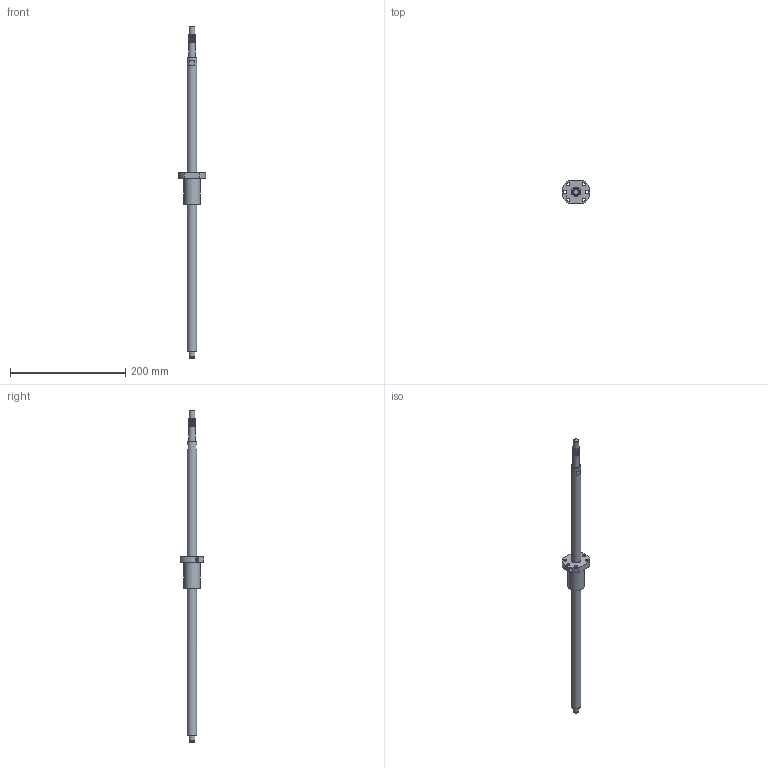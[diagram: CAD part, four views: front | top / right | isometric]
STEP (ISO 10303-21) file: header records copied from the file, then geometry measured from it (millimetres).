
FILE_DESCRIPTION(/* description */ (''),/* implementation_level */ '2;1');
FILE_NAME(/* name */ 'BSG142_asm1.stp',/* time_stamp */ '2017-01-07T08:48:36+08:00',/* author */ (''),/* organization */ (''),/* preprocessor_version */ 'ST-DEVELOPER v15',/* originating_system */ 'SIEMENS PLM Software NX 8.5',/* authorisation */ '');
FILE_SCHEMA (('AUTOMOTIVE_DESIGN { 1 0 10303 214 3 1 1 1 }'));
Length unit declared in the file: millimetre
Products named in the file (3): 01; BSG142; BSG142_asm1
Assembly tree (2 placements, depth 2):
  BSG142_asm1
    BSG142
    01
Bounding box: 48 x 40 x 575 mm (x, y, z)
Volume: 140066.5 mm3; surface area: 40741 mm2
Topology: 2 solids, 2 shells, 56 faces, 137 edges, 94 vertices
Faces by surface type: cylinder 28, plane 24, bspline 2, cone 2
Full cylindrical faces by diameter (mm): 5 x1, 5.5 x6, 6 x1, 9.6 x1, 10 x3, 12 x8, 16 x2, 28 x1
Entity records: 2497 total; most frequent: CARTESIAN_POINT 1414, DIRECTION 212, ORIENTED_EDGE 170, AXIS2_PLACEMENT_3D 92, EDGE_LOOP 90, EDGE_CURVE 85, FACE_BOUND 69, VERTEX_POINT 67
